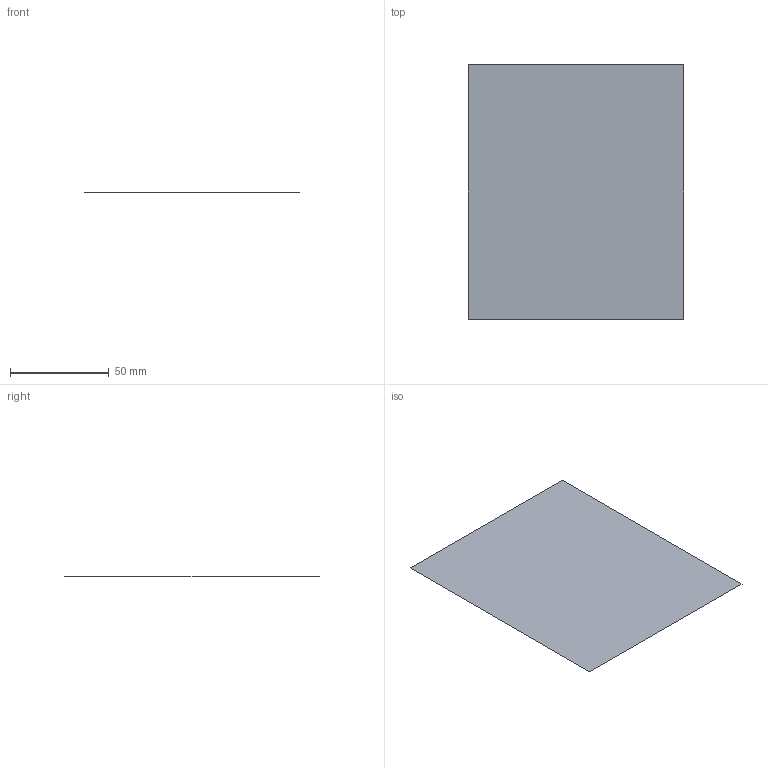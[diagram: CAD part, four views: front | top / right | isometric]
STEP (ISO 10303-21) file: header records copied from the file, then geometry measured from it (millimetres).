
FILE_DESCRIPTION(('CATIA V5 STEP Exchange'),'2;1');
FILE_NAME('C:\_Andres\UNIVERSIDAD\IQS\ASIGNATURAS\DAO\EXF\EXF-15161c\1original\Postius_Echeverri_Ej06-calculo_v19.stp','2016-03-04T20:57:43+00:00',('none'),('none'),'CATIA Version 5 Release 20 SP 1 (IN-10)','CATIA V5 STEP AP203','none');
FILE_SCHEMA(('CONFIG_CONTROL_DESIGN'));
Length unit declared in the file: millimetre
Products named in the file (1): Postius_Echeverri_Ej06-calculo_v19
Bounding box: 109 x 129 x 0 mm (x, y, z)
Surface area: 14061 mm2 (no closed solid volume)
Topology: 0 solids, 1 shells, 1 faces, 8 edges, 9 vertices
Faces by surface type: plane 1
Entity records: 130 total; most frequent: CARTESIAN_POINT 23, DIRECTION 12, VECTOR 8, LINE 8, COMPOSITE_CURVE_SEGMENT 4, ORIENTED_EDGE 4, CC_DESIGN_PERSON_AND_ORGANIZATION_ASSIGNMENT 4, PERSON_AND_ORGANIZATION_ROLE 4
